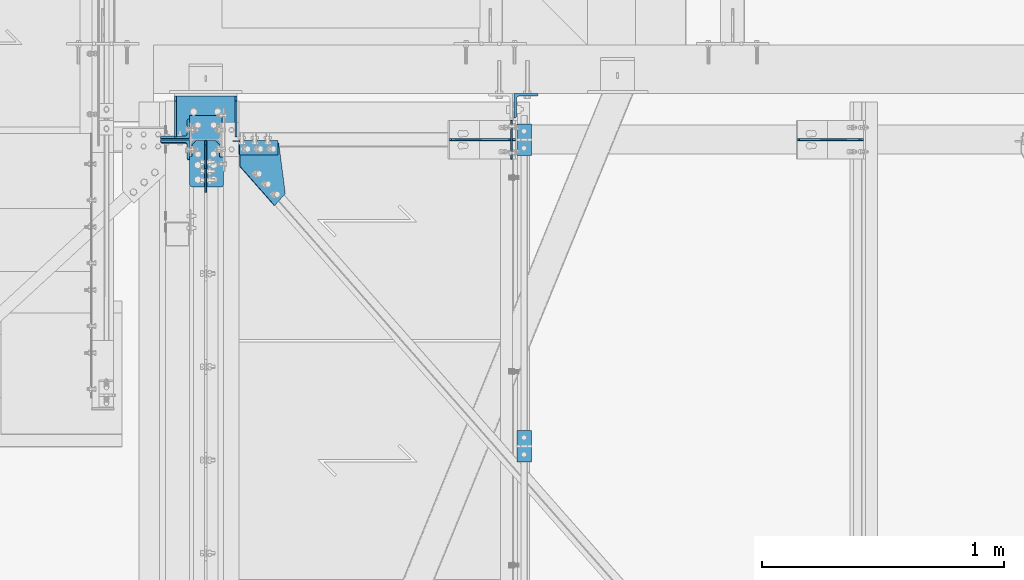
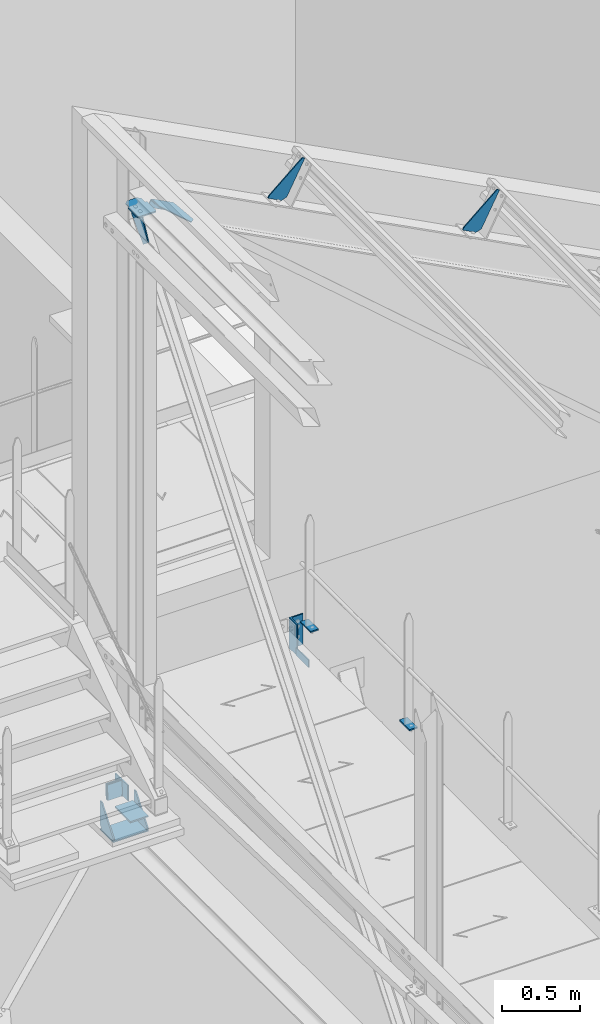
# One storey, part 83 of 362: 13 beams, 3 members, 11 elements without a shape of their own.
"""IFC2X3 building model written with IfcOpenShell, lengths in millimetres."""

from ifc_helpers import new_model, si_unit, frame, frame_2d, origin_with_axes, origin_2d_with_axis, place, context, subcontext, project, spatial, polyline, circle_curve, parameter, trimmed, segment, composite_curve, rectangle, l_section, outline, extrude, material, type_object, element, aggregate, save


model = new_model("IFC2X3")

# Units and contexts
model_context = context("Model", 3, precision=1e-05, world=origin_with_axes())
body_context = subcontext(model_context, "Body", "Model", "MODEL_VIEW")
ifc_project = project(units=[si_unit("LENGTHUNIT", "METRE", prefix="MILLI"), si_unit("AREAUNIT", "SQUARE_METRE"), si_unit("VOLUMEUNIT", "CUBIC_METRE"), si_unit("MASSUNIT", "GRAM", prefix="KILO"), si_unit("TIMEUNIT", "SECOND"), si_unit("PLANEANGLEUNIT", "RADIAN"), si_unit("SOLIDANGLEUNIT", "STERADIAN"), si_unit("THERMODYNAMICTEMPERATUREUNIT", "DEGREE_CELSIUS"), si_unit("LUMINOUSINTENSITYUNIT", "LUMEN")], contexts=[model_context])

# Site, building, storey
site_placement = place(None, origin_with_axes())
site = spatial("IfcSite", under=ifc_project, at=site_placement, Name="Undefined", CompositionType="ELEMENT")
building_placement = place(site_placement, origin_with_axes())
building = spatial("IfcBuilding", under=site, at=building_placement, Name="Undefined", CompositionType="ELEMENT")
storey_placement = place(building_placement, origin_with_axes())
storey = spatial("IfcBuildingStorey", under=building, at=storey_placement, Name="Undefined", CompositionType="ELEMENT", Elevation=0.0)

# Assembly, beams
assembly_1_placement = place(storey_placement, origin_with_axes())
assembly_1 = element("IfcElementAssembly", 1, at=assembly_1_placement, inside=storey, Name="MAIN COURANTE", AssemblyPlace="NOTDEFINED", PredefinedType="NOTDEFINED")
ifc_material = material(Name="Undefined/S235-E24")
beam_type_1 = type_object("IfcBeamType", Name="PL10*60", PredefinedType="NOTDEFINED")
beam_1_placement = place(assembly_1_placement, frame((13993.9998936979, 15265.0000000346, 8244.99999825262), z_axis=(-1.0, 0.0, 0.0), x_axis=(0.0, -1.0, 0.0)))
beam_1 = element("IfcBeam", 2, at=beam_1_placement, type_object=beam_type_1, material=ifc_material, Name="PLATINE", ObjectType="PL10*60", context=body_context, shape_type="SweptSolid", body=[
    extrude(rectangle(XDim=10.0, YDim=60.0, at=origin_2d_with_axis()), frame((130.0, 0.0, 0.0), z_axis=(-1.0, 0.0, 0.0), x_axis=(0.0, -1.0, 0.0)), (0.0, 0.0, 1.0), 130.0),
])
beam_2_placement = place(assembly_1_placement, frame((13993.9998927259, 14000.0034471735, 8244.99999921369), z_axis=(-1.0, 0.0, 0.0), x_axis=(0.0, -1.0, 0.0)))
beam_2 = element("IfcBeam", 3, at=beam_2_placement, type_object=beam_type_1, material=ifc_material, Name="PLATINE", ObjectType="PL10*60", context=body_context, shape_type="SweptSolid", body=[
    extrude(rectangle(XDim=10.0, YDim=60.0, at=origin_2d_with_axis()), frame((130.0, 0.0, 0.0), z_axis=(-1.0, 0.0, 0.0), x_axis=(0.0, -1.0, 0.0)), (0.0, 0.0, 1.0), 130.0),
])
aggregate(assembly_1, [beam_1, beam_2])

# Assembly, beam
assembly_2_placement = place(storey_placement, origin_with_axes())
assembly_2 = element("IfcElementAssembly", 4, at=assembly_2_placement, inside=storey, AssemblyPlace="NOTDEFINED", PredefinedType="NOTDEFINED")
beam_type_2 = type_object("IfcBeamType", Name="TOLE6*196", PredefinedType="NOTDEFINED")
beam_3_placement = place(assembly_2_placement, frame((13007.0676558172, 14977.2888843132, 11896.7090467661), z_axis=(0.463528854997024, 6.99999093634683e-09, 0.886081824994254), x_axis=(-0.128579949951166, 0.989415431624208, 0.0672629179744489)))
beam_3 = element("IfcBeam", 5, at=beam_3_placement, type_object=beam_type_2, material=ifc_material, Name="GOUSSET", ObjectType="TOLE6*196", context=body_context, shape_type="SweptSolid", body=[
    extrude(outline(polyline([(0.0, 0.0), (211.449417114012, -6.94853952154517e-10), (237.569351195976, 178.094726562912), (142.065780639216, 192.101562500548), (-41.6174392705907, 56.2848854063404), (0.0, 0.0)])), frame((0.0, 0.0, -3.0), z_axis=(0.0, 0.0, 1.0), x_axis=(1.0, 0.0, 0.0)), (0.0, 0.0, 1.0), 6.0),
])
aggregate(assembly_2, [beam_3])

# Assembly, member
assembly_3_placement = place(storey_placement, origin_with_axes())
assembly_3 = element("IfcElementAssembly", 6, at=assembly_3_placement, inside=storey, AssemblyPlace="NOTDEFINED", PredefinedType="NOTDEFINED")
member_type_1 = type_object("IfcMemberType", Name="L60*6", PredefinedType="NOTDEFINED")
member_1_placement = place(assembly_3_placement, frame((12805.0882876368, 15166.5001030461, 11965.1261729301), z_axis=(0.0, -1.0, 0.0), x_axis=(0.886081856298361, 3.500000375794e-08, -0.463528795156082)))
member_1 = element("IfcMember", 7, at=member_1_placement, type_object=member_type_1, material=ifc_material, Name="ATTACHE", ObjectType="L60*6", context=body_context, shape_type="SweptSolid", body=[
    extrude(l_section(Depth=60.0, Width=60.0, Thickness=6.0, FilletRadius=8.0, EdgeRadius=4.0, at=origin_2d_with_axis()), frame((180.0, 0.0, 0.0), z_axis=(-1.0, 0.0, 0.0), x_axis=(0.0, -1.0, 0.0)), (0.0, 0.0, 1.0), 180.0),
])
aggregate(assembly_3, [member_1])

# Assembly, beam
assembly_4_placement = place(storey_placement, origin_with_axes())
assembly_4 = element("IfcElementAssembly", 8, at=assembly_4_placement, inside=storey, Name="PANNE SHED", AssemblyPlace="NOTDEFINED", PredefinedType="NOTDEFINED")
beam_type_3 = type_object("IfcBeamType", Name="TOLE8*140", PredefinedType="NOTDEFINED")
beam_4_placement = place(assembly_4_placement, frame((15395.0613651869, 15200.0, 11158.7378432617), z_axis=(0.0, -1.0, 0.0), x_axis=(-0.886081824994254, 0.0, 0.463528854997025)))
beam_4 = element("IfcBeam", 9, at=beam_4_placement, type_object=beam_type_3, material=ifc_material, Name="RAIDISSEUR", ObjectType="TOLE8*140", context=body_context, shape_type="SweptSolid", body=[
    extrude(outline(polyline([(0.0, 0.0), (19.9999999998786, -3.63797880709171e-12), (140.000030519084, 299.999999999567), (140.000030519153, 319.999999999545), (30.0000147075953, 319.999999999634), (0.0, 290.0), (0.0, 0.0)])), frame((0.0, 0.0, -4.0), z_axis=(0.0, 0.0, 1.0), x_axis=(1.0, 0.0, 0.0)), (0.0, 0.0, 1.0), 8.0),
])
aggregate(assembly_4, [beam_4])

assembly_5_placement = place(storey_placement, origin_with_axes())
assembly_5 = element("IfcElementAssembly", 10, at=assembly_5_placement, inside=storey, Name="PANNE SHED", AssemblyPlace="NOTDEFINED", PredefinedType="NOTDEFINED")
beam_5_placement = place(assembly_5_placement, frame((13957.7613225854, 15200.0, 11910.6201334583), z_axis=(0.0, -1.0, 0.0), x_axis=(-0.886081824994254, 0.0, 0.463528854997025)))
beam_5 = element("IfcBeam", 11, at=beam_5_placement, type_object=beam_type_3, material=ifc_material, Name="RAIDISSEUR", ObjectType="TOLE8*140", context=body_context, shape_type="SweptSolid", body=[
    extrude(outline(polyline([(0.0, 0.0), (19.9999999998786, -3.63797880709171e-12), (140.000030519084, 299.999999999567), (140.000030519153, 319.999999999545), (30.0000147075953, 319.999999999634), (0.0, 290.0), (0.0, 0.0)])), frame((0.0, 0.0, -4.0), z_axis=(0.0, 0.0, 1.0), x_axis=(1.0, 0.0, 0.0)), (0.0, 0.0, 1.0), 8.0),
])
aggregate(assembly_5, [beam_5])

assembly_6_placement = place(storey_placement, origin_with_axes())
assembly_6 = element("IfcElementAssembly", 12, at=assembly_6_placement, inside=storey, Name="MONTANT", AssemblyPlace="NOTDEFINED", PredefinedType="NOTDEFINED")
beam_type_4 = type_object("IfcBeamType", Name="PL10*133", PredefinedType="NOTDEFINED")
beam_6_placement = place(assembly_6_placement, frame((12680.0, 15300.0, 7255.0), z_axis=(1.0, 0.0, 0.0), x_axis=(0.0, -1.0, 0.0)))
beam_6 = element("IfcBeam", 13, at=beam_6_placement, type_object=beam_type_4, material=ifc_material, Name="PLATINE", ObjectType="PL10*133", context=body_context, shape_type="SweptSolid", body=[
    extrude(rectangle(XDim=10.0, YDim=133.0, at=origin_2d_with_axis()), frame((200.0, 0.0, 0.0), z_axis=(-1.0, 0.0, 0.0), x_axis=(0.0, -1.0, 0.0)), (0.0, 0.0, 1.0), 200.0),
])

assembly_7_placement = place(storey_placement, origin_with_axes())
assembly_7 = element("IfcElementAssembly", 14, at=assembly_7_placement, inside=storey, AssemblyPlace="NOTDEFINED", PredefinedType="NOTDEFINED")
beam_type_5 = type_object("IfcBeamType", Name="TOLE6*60", PredefinedType="NOTDEFINED")
beam_7_placement = place(assembly_7_placement, frame((13942.9998855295, 15120.0, 7985.0), z_axis=(-1.0, 0.0, 0.0), x_axis=(0.0, 0.0, 1.0)))
beam_7 = element("IfcBeam", 15, at=beam_7_placement, type_object=beam_type_5, material=ifc_material, Name="PLATINE", ObjectType="TOLE6*60", context=body_context, shape_type="SweptSolid", body=[
    extrude(outline(polyline([(0.0, 0.0), (60.0, 0.0), (60.0, 159.999984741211), (0.0, 159.999984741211), (0.0, 0.0)])), frame((0.0, 0.0, -3.0), z_axis=(0.0, 0.0, 1.0), x_axis=(1.0, 0.0, 0.0)), (0.0, 0.0, 1.0), 6.0),
])
aggregate(assembly_7, [beam_7])

# Assembly, member
assembly_8_placement = place(storey_placement, origin_with_axes())
assembly_8 = element("IfcElementAssembly", 16, at=assembly_8_placement, inside=storey, AssemblyPlace="NOTDEFINED", PredefinedType="NOTDEFINED")
member_type_2 = type_object("IfcMemberType", Name="L120*80*10", PredefinedType="NOTDEFINED")
member_2_placement = place(assembly_8_placement, frame((12553.5000000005, 15244.8642482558, 7530.88751296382), z_axis=(-1.0, 0.0, 0.0), x_axis=(-1.05403257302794e-09, -0.0314112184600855, -0.999506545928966)))
member_2 = element("IfcMember", 17, at=member_2_placement, type_object=member_type_2, material=ifc_material, Name="ATTACHE", ObjectType="L120*80*10", context=body_context, shape_type="SweptSolid", body=[
    extrude(l_section(Depth=120.0, Width=80.0, Thickness=10.0, FilletRadius=11.0, EdgeRadius=5.5, at=origin_2d_with_axis()), frame((120.0, 0.0, 0.0), z_axis=(-1.0, 0.0, 0.0), x_axis=(0.0, -1.0, 0.0)), (0.0, 0.0, 1.0), 120.0),
])
aggregate(assembly_8, [member_2])

assembly_9_placement = place(storey_placement, origin_with_axes())
assembly_9 = element("IfcElementAssembly", 18, at=assembly_9_placement, inside=storey, AssemblyPlace="NOTDEFINED", PredefinedType="NOTDEFINED")
member_3_placement = place(assembly_9_placement, frame((12553.5000000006, 15155.1364772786, 7413.64811928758), z_axis=(-1.0, 0.0, 0.0), x_axis=(7.58071938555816e-11, 0.0314107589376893, 0.999506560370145)))
member_3 = element("IfcMember", 19, at=member_3_placement, type_object=member_type_2, material=ifc_material, Name="ATTACHE", ObjectType="L120*80*10", context=body_context, shape_type="SweptSolid", body=[
    extrude(l_section(Depth=120.0, Width=80.0, Thickness=10.0, FilletRadius=11.0, EdgeRadius=5.5, at=origin_2d_with_axis()), frame((120.0, 0.0, 0.0), z_axis=(-1.0, 0.0, 0.0), x_axis=(0.0, -1.0, 0.0)), (0.0, 0.0, 1.0), 120.0),
])
aggregate(assembly_9, [member_3])

# Assembly, beam
assembly_10_placement = place(storey_placement, origin_with_axes())
assembly_10 = element("IfcElementAssembly", 20, at=assembly_10_placement, inside=storey, AssemblyPlace="NOTDEFINED", PredefinedType="NOTDEFINED")
beam_type_6 = type_object("IfcBeamType", Name="L100*10", PredefinedType="NOTDEFINED")
beam_8_placement = place(assembly_10_placement, frame((14002.4998855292, 15339.9999998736, 8210.00437164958), z_axis=(1.0, 0.0, 0.0), x_axis=(0.0, 0.0, -1.0)))
beam_8 = element("IfcBeam", 21, at=beam_8_placement, type_object=beam_type_6, material=ifc_material, Name="ATTACHE", ObjectType="L100*10", context=body_context, shape_type="SweptSolid", body=[
    extrude(l_section(Depth=100.0, Width=100.0, Thickness=10.0, FilletRadius=12.0, EdgeRadius=6.0, at=origin_2d_with_axis()), frame((240.0, 0.0, 0.0), z_axis=(-1.0, 0.0, 0.0), x_axis=(0.0, -1.0, 0.0)), (0.0, 0.0, 1.0), 240.0),
])
aggregate(assembly_10, [beam_8])

# Beam
beam_type_7 = type_object("IfcBeamType", Name="TOLE10*192", PredefinedType="NOTDEFINED")
beam_9_placement = place(assembly_6_placement, frame((12613.5, 15004.9969221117, 12032.0), z_axis=(0.0, 0.0, -1.0), x_axis=(0.0, 1.0, 0.0)))
beam_9 = element("IfcBeam", 22, at=beam_9_placement, type_object=beam_type_7, material=ifc_material, Name="PLAT", ObjectType="TOLE10*192", context=body_context, shape_type="SweptSolid", body=[
    extrude(outline(composite_curve([segment(trimmed(circle_curve(frame_2d((10.0, 10.0), x_axis=(-1.0, 0.0)), 10.0), [parameter(0.0)], [parameter(1.5707963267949)], True, "PARAMETER"), True, "CONTINUOUS"), segment(polyline([(9.99999999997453, 6.91215973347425e-11), (124.5, 0.0), (124.5, 9.0), (172.25, 9.0), (192.25, 29.0), (192.25, 104.0), (172.25, 124.0), (124.0, 124.0), (124.0, 140.0), (10.0, 140.0)]), True, "CONTINUOUS"), segment(trimmed(circle_curve(frame_2d((10.0, 130.0), x_axis=(0.0, 1.0)), 10.0), [parameter(0.0)], [parameter(1.5707963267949)], True, "PARAMETER"), True, "CONTINUOUS"), segment(polyline([(0.0, 130.0), (-1.81898940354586e-10, 10.0000000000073)]), True, "CONTINUOUS")], self_intersect=True)), frame((0.0, 0.0, -5.0), z_axis=(0.0, 0.0, 1.0), x_axis=(1.0, 0.0, 0.0)), (0.0, 0.0, 1.0), 10.0),
])

beam_type_8 = type_object("IfcBeamType", Name="TOLE8*250", PredefinedType="NOTDEFINED")
beam_10_placement = place(assembly_6_placement, frame((12680.0, 15080.0, 12027.0), z_axis=(-1.0, 0.0, 0.0), x_axis=(0.0, 1.0, 0.0)))
beam_10 = element("IfcBeam", 23, at=beam_10_placement, type_object=beam_type_8, material=ifc_material, Name="GOUSSET", ObjectType="TOLE8*250", context=body_context, shape_type="SweptSolid", body=[
    extrude(outline(polyline([(0.0, 0.0), (97.2469253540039, 0.0), (117.246925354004, 20.0), (117.246925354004, 100.0), (-35.1922302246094, 249.837203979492), (-97.8502807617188, 200.098205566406), (0.0, 0.0)])), frame((0.0, 0.0, -4.0), z_axis=(0.0, 0.0, 1.0), x_axis=(1.0, 0.0, 0.0)), (0.0, 0.0, 1.0), 8.0),
])

aggregate(assembly_6, [beam_10, beam_6, beam_9])

# Assembly, beams
assembly_11_placement = place(storey_placement, origin_with_axes())
assembly_11 = element("IfcElementAssembly", 24, at=assembly_11_placement, inside=storey, AssemblyPlace="NOTDEFINED", PredefinedType="NOTDEFINED")
beam_type_9 = type_object("IfcBeamType", Name="PL10*260", PredefinedType="NOTDEFINED")
beam_11_placement = place(assembly_11_placement, frame((12679.9999999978, 15380.0000000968, 7055.0), z_axis=(-1.0, 0.0, 0.0), x_axis=(0.0, -1.0, 0.0)))
beam_11 = element("IfcBeam", 25, at=beam_11_placement, type_object=beam_type_9, material=ifc_material, Name="SABOT", ObjectType="PL10*260", context=body_context, shape_type="SweptSolid", body=[
    extrude(rectangle(XDim=10.0, YDim=260.0, at=origin_2d_with_axis()), frame((169.99999962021, 0.0, 0.0), z_axis=(-1.0, 0.0, 0.0), x_axis=(0.0, -1.0, 0.0)), (0.0, 0.0, 1.0), 170.0),
])
beam_type_10 = type_object("IfcBeamType", Name="PL10*170", PredefinedType="NOTDEFINED")
beam_12_placement = place(assembly_11_placement, frame((12554.999999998, 15210.0000004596, 7060.0), z_axis=(-1.0, 0.0, 0.0), x_axis=(0.0, 0.0, 1.0)))
beam_12 = element("IfcBeam", 26, at=beam_12_placement, type_object=beam_type_10, material=ifc_material, Name="RAIDISSEUR", ObjectType="PL10*170", context=body_context, shape_type="SweptSolid", body=[
    extrude(outline(polyline([(0.0, 0.0), (19.9999999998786, -3.63797880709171e-12), (214.999206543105, 150.000000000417), (214.999145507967, 170.000000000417), (29.9999970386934, 170.00000000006), (-2.43872305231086e-06, 140.000000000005), (0.0, 0.0)])), frame((0.0, 0.0, -5.0), z_axis=(0.0, 0.0, 1.0), x_axis=(1.0, 0.0, 0.0)), (0.0, 0.0, 1.0), 10.0),
])
beam_13_placement = place(assembly_11_placement, frame((12804.9999999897, 15210.0000004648, 7060.00000000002), z_axis=(-1.0, 0.0, 0.0), x_axis=(0.0, 0.0, 1.0)))
beam_13 = element("IfcBeam", 27, at=beam_13_placement, type_object=beam_type_10, material=ifc_material, Name="RAIDISSEUR", ObjectType="PL10*170", context=body_context, shape_type="SweptSolid", body=[
    extrude(outline(polyline([(0.0, 0.0), (19.9999999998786, -3.63797880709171e-12), (214.999206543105, 150.000000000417), (214.999145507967, 170.000000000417), (29.9999970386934, 170.00000000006), (-2.43872305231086e-06, 140.000000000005), (0.0, 0.0)])), frame((0.0, 0.0, -5.0), z_axis=(0.0, 0.0, 1.0), x_axis=(1.0, 0.0, 0.0)), (0.0, 0.0, 1.0), 10.0),
])
aggregate(assembly_11, [beam_12, beam_13, beam_11])

save(model, "model.ifc")
